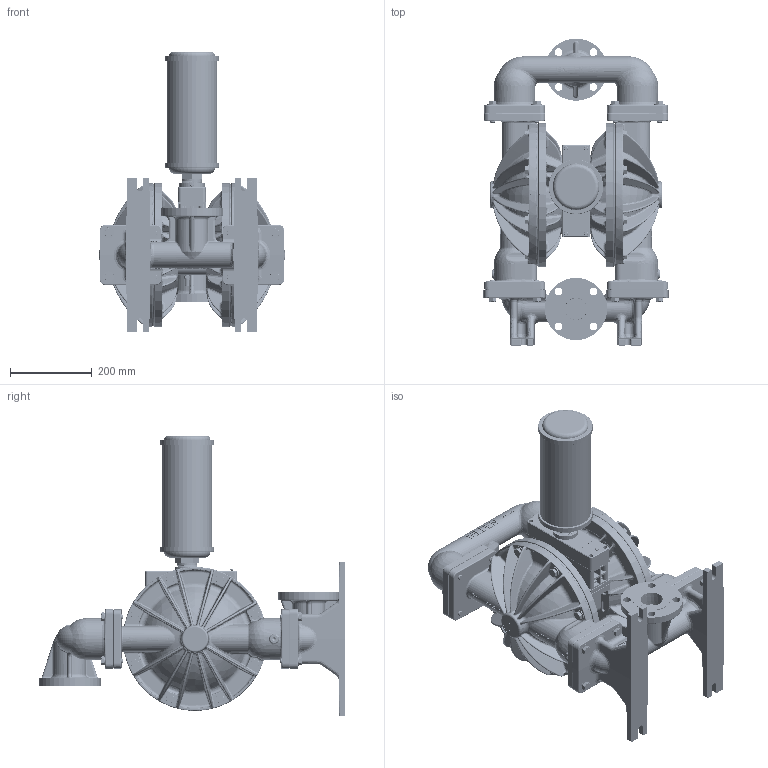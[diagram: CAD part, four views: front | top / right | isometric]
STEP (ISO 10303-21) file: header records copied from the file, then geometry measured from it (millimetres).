
FILE_DESCRIPTION (( 'STEP AP203' ), '1' );
FILE_NAME ('PS830_ADV_ALUMINUM_ANSI 1.STEP', '2022-07-04T12:31:02', ( '' ), ( '' ), 'SwSTEP 2.0', 'SolidWorks 2019', '' );
FILE_SCHEMA (( 'CONFIG_CONTROL_DESIGN' ));
Length unit declared in the file: inch
Products named in the file (1): PS830_ADV_ALUMINUM_ANSI 1
Bounding box: 453.45 x 751.59 x 686.69 mm (x, y, z)
Volume: 33360926.4 mm3; surface area: 1918021.3 mm2
Topology: 1 solids, 1 shells, 9079 faces, 23080 edges, 14315 vertices
Faces by surface type: plane 4414, bspline 2077, cylinder 1239, cone 560, torus 535, sphere 254
Entity records: 734957 total; most frequent: CARTESIAN_POINT 533697, ORIENTED_EDGE 46112, DIRECTION 35906, EDGE_CURVE 23056, VERTEX_POINT 14311, AXIS2_PLACEMENT_3D 12463, VECTOR 10980, LINE 10980
